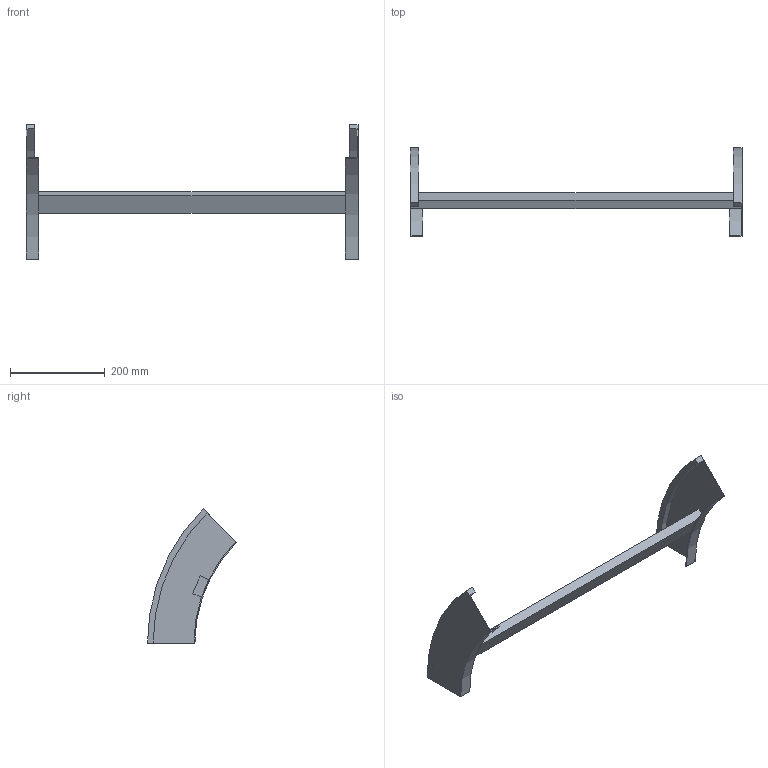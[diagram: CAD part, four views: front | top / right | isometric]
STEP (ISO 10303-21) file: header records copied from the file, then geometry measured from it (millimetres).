
FILE_DESCRIPTION (( 'STEP AP214' ), '1' );
FILE_NAME ('B2_34B3D700.step', '2025-02-21T14:52:19', ( '' ), ( '' ), 'SwSTEP 2.0', 'SolidWorks 2023', '' );
FILE_SCHEMA (( 'AUTOMOTIVE_DESIGN' ));
Length unit declared in the file: millimetre
Products named in the file (3): B2_LONGH.DISCESA_45°_H100_R300; TRAVERSINO_700; B2_34B3D700
Assembly tree (3 placements, depth 2):
  B2_34B3D700
    B2_LONGH.DISCESA_45°_H100_R300  x2
    TRAVERSINO_700
Bounding box: 700 x 187.87 x 282.84 mm (x, y, z)
Volume: 816183.8 mm3; surface area: 243203.9 mm2
Topology: 3 solids, 3 shells, 26 faces, 60 edges, 40 vertices
Faces by surface type: plane 18, cylinder 8
Entity records: 544 total; most frequent: DIRECTION 88, CARTESIAN_POINT 82, ORIENTED_EDGE 72, EDGE_CURVE 36, AXIS2_PLACEMENT_3D 30, LINE 28, VECTOR 28, VERTEX_POINT 24
